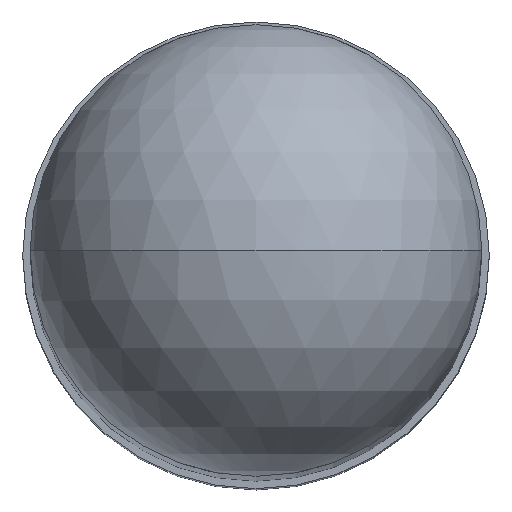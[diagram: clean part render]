
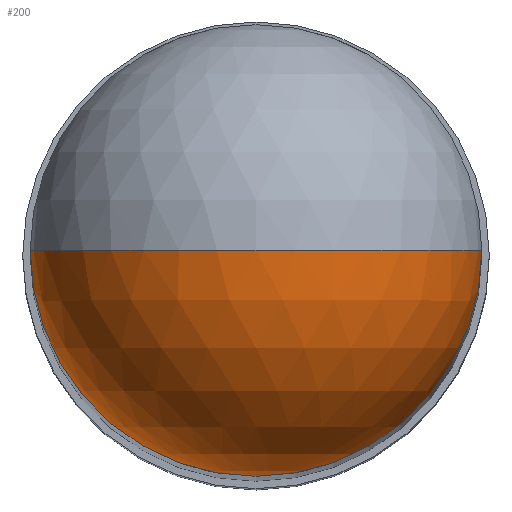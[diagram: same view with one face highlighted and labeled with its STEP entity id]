
A CAD part, top view. The second image highlights one B-rep face of the part: STEP entity #200.
In plain terms, the highlighted spherical face has radius 3 mm.
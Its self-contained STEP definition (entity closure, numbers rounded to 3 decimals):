
#2 = CIRCLE ( 'NONE', #88, 3. ) ;
#24 = VERTEX_POINT ( 'NONE', #292 ) ;
#28 = EDGE_CURVE ( 'NONE', #216, #24, #86, .T. ) ;
#41 = CARTESIAN_POINT ( 'NONE',  ( 0., 0., 67. ) ) ;
#43 = CARTESIAN_POINT ( 'NONE',  ( 0., 0., 67. ) ) ;
#82 = AXIS2_PLACEMENT_3D ( 'NONE', #43, #325, #239 ) ;
#86 = CIRCLE ( 'NONE', #127, 3. ) ;
#88 = AXIS2_PLACEMENT_3D ( 'NONE', #194, #130, #193 ) ;
#114 = EDGE_CURVE ( 'NONE', #216, #180, #229, .T. ) ;
#127 = AXIS2_PLACEMENT_3D ( 'NONE', #41, #346, #322 ) ;
#130 = DIRECTION ( 'NONE',  ( 0., 1., 0. ) ) ;
#162 = CARTESIAN_POINT ( 'NONE',  ( 0., 0., 70. ) ) ;
#177 = CARTESIAN_POINT ( 'NONE',  ( 3., 0., 67. ) ) ;
#180 = VERTEX_POINT ( 'NONE', #162 ) ;
#187 = SPHERICAL_SURFACE ( 'NONE', #255, 3. ) ;
#193 = DIRECTION ( 'NONE',  ( -1., 0., 0. ) ) ;
#194 = CARTESIAN_POINT ( 'NONE',  ( 0., 0., 67. ) ) ;
#200 = ADVANCED_FACE ( 'NONE', ( #335 ), #187, .T. ) ;
#216 = VERTEX_POINT ( 'NONE', #177 ) ;
#222 = ORIENTED_EDGE ( 'NONE', *, *, #114, .T. ) ;
#226 = ORIENTED_EDGE ( 'NONE', *, *, #28, .F. ) ;
#229 = CIRCLE ( 'NONE', #82, 3. ) ;
#239 = DIRECTION ( 'NONE',  ( 0., 0., -1. ) ) ;
#255 = AXIS2_PLACEMENT_3D ( 'NONE', #330, #274, #302 ) ;
#274 = DIRECTION ( 'NONE',  ( 0., 1., 0. ) ) ;
#292 = CARTESIAN_POINT ( 'NONE',  ( -3., 0., 67. ) ) ;
#302 = DIRECTION ( 'NONE',  ( 1., 0., 0. ) ) ;
#321 = ORIENTED_EDGE ( 'NONE', *, *, #333, .F. ) ;
#322 = DIRECTION ( 'NONE',  ( -1., 0., 0. ) ) ;
#325 = DIRECTION ( 'NONE',  ( 0., -1., 0. ) ) ;
#330 = CARTESIAN_POINT ( 'NONE',  ( 0., 0., 67. ) ) ;
#333 = EDGE_CURVE ( 'NONE', #24, #180, #2, .T. ) ;
#335 = FACE_OUTER_BOUND ( 'NONE', #350, .T. ) ;
#346 = DIRECTION ( 'NONE',  ( 0., 0., -1. ) ) ;
#350 = EDGE_LOOP ( 'NONE', ( #321, #226, #222 ) ) ;
